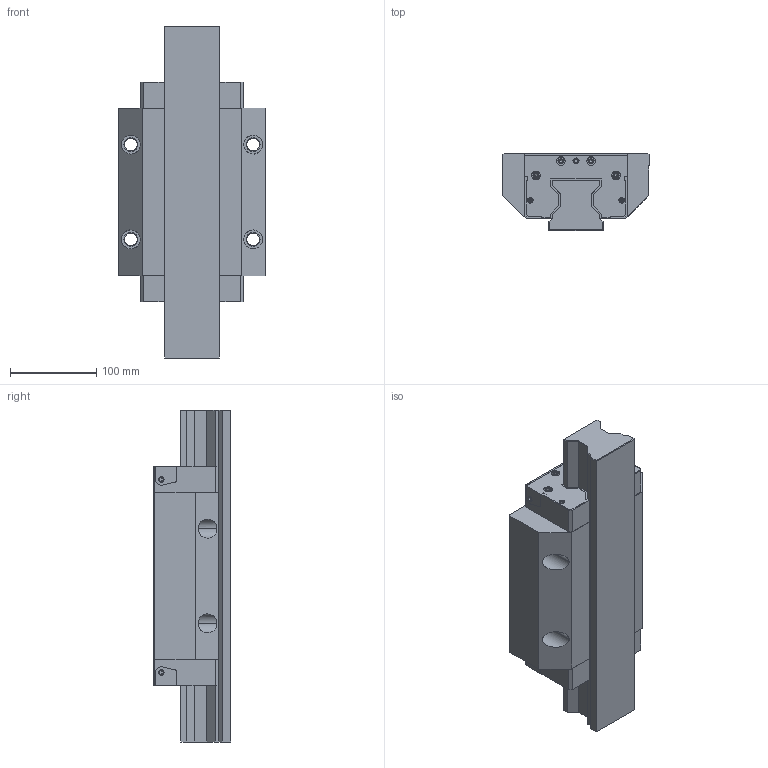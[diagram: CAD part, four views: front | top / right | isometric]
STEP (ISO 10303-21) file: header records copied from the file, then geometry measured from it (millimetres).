
FILE_DESCRIPTION((''),'2;1');
FILE_NAME('R1853_SIZE65_ASM','2021-07-06T07:54:34',('ac91sw'),(''),'CREO PARAMETRIC BY PTC INC, 2020044','CREO PARAMETRIC BY PTC INC, 2020044','');
FILE_SCHEMA(('AUTOMOTIVE_DESIGN { 1 0 10303 214 1 1 1 1 }'));
Length unit declared in the file: millimetre
Products named in the file (6): R1853_SIZE65_SKEL; R185362501; R185160702_Z; R913034226_Z; R1853_SIZE65_PSF; R1853_SIZE65_ASM
Assembly tree (11 placements, depth 2):
  R1853_SIZE65_ASM
    R1853_SIZE65_SKEL
    R185362501
    R185160702_Z  x2
    R913034226_Z  x6
    R1853_SIZE65_PSF
Bounding box: 170 x 90 x 385.3 mm (x, y, z)
Volume: 3090218.2 mm3; surface area: 361279.9 mm2
Topology: 10 solids, 30 shells, 594 faces, 1502 edges, 958 vertices
Faces by surface type: plane 344, cylinder 170, cone 80
Entity records: 16555 total; most frequent: CARTESIAN_POINT 2197, DIRECTION 1744, ORIENTED_EDGE 1628, EDGE_CURVE 836, PROPERTY_DEFINITION 698, REPRESENTATION 691, PROPERTY_DEFINITION_REPRESENTATION 691, DESCRIPTIVE_REPRESENTATION_ITEM 642
